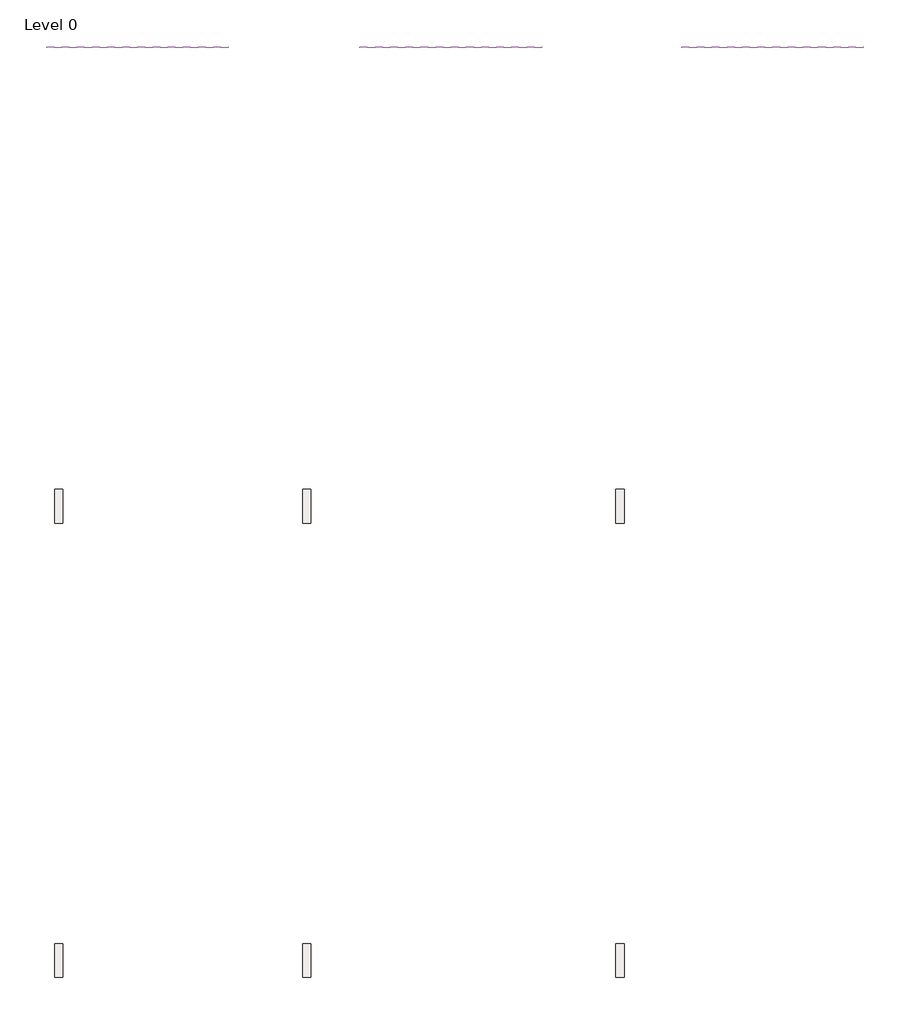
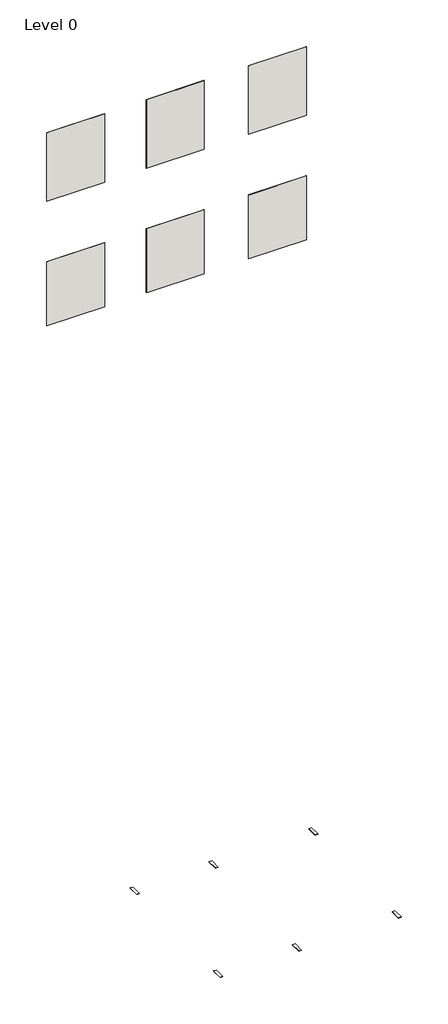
# One storey: 6 slabs, 6 walls.
"""IFC4 building model written with IfcOpenShell, lengths in millimetres."""

from ifc_helpers import new_model, si_unit, frame, origin, place, context, project, spatial, polyline, outline, extrude, element, save

model = new_model("IFC4")

# Units and contexts
model_context = context("Model", 3, world=origin())
ifc_project = project(units=[si_unit("LENGTHUNIT", "METRE", prefix="MILLI")], contexts=[model_context])

# Site, building, storey
site = spatial("IfcSite", under=ifc_project)
building = spatial("IfcBuilding", under=site)
storey = spatial("IfcBuildingStorey", under=building, Name="Level 0", Elevation=0.0)

# Slabs
placement = place(None, origin())
element("IfcSlab", 1, ObjectType="Floor_Tiles_Refin-Halo-Basil-Lucido_6x24_OY76", at=placement, inside=storey, context=model_context, shape_type="SweptSolid", body=[
    extrude(outline(polyline([(6034.3752062, 4978.4192064), (6034.3752062, 4738.4192064), (5974.3752062, 4738.4192064), (5974.3752062, 4978.4192064), (6034.3752062, 4978.4192064)])), frame((0.0, 0.0, -9.5), z_axis=(0.0, 0.0, 1.0), x_axis=(1.0, 0.0, 0.0)), (0.0, 0.0, 1.0), 9.5),
])
element("IfcSlab", 2, ObjectType="Floor_Tiles_Refin-Halo-Cherry-Lucido_6x24_OY77", at=placement, inside=storey, context=model_context, shape_type="SweptSolid", body=[
    extrude(outline(polyline([(7807.3924055, 4978.4192064), (7807.3924055, 4738.4192064), (7747.3924055, 4738.4192064), (7747.3924055, 4978.4192064), (7807.3924055, 4978.4192064)])), frame((0.0, 0.0, -9.5), z_axis=(0.0, 0.0, 1.0), x_axis=(1.0, 0.0, 0.0)), (0.0, 0.0, 1.0), 9.5),
])
element("IfcSlab", 3, ObjectType="Floor_Tiles_Refin-Halo-Chrome-Lucido_6x24_OY79", at=placement, inside=storey, context=model_context, shape_type="SweptSolid", body=[
    extrude(outline(polyline([(10047.3924055, 4978.4192064), (10047.3924055, 4738.4192064), (9987.3924055, 4738.4192064), (9987.3924055, 4978.4192064), (10047.3924055, 4978.4192064)])), frame((0.0, 0.0, -9.5), z_axis=(0.0, 0.0, 1.0), x_axis=(1.0, 0.0, 0.0)), (0.0, 0.0, 1.0), 9.5),
])
element("IfcSlab", 4, ObjectType="Floor_Tiles_Refin-Halo-Cotton-Lucido_6x24_OY80", at=placement, inside=storey, context=model_context, shape_type="SweptSolid", body=[
    extrude(outline(polyline([(6034.3752062, 1729.4623743), (6034.3752062, 1489.4623743), (5974.3752062, 1489.4623743), (5974.3752062, 1729.4623743), (6034.3752062, 1729.4623743)])), frame((0.0, 0.0, -9.5), z_axis=(0.0, 0.0, 1.0), x_axis=(1.0, 0.0, 0.0)), (0.0, 0.0, 1.0), 9.5),
])
element("IfcSlab", 5, ObjectType="Floor_Tiles_Refin-Halo-Ink-Lucido_6x24_OY81", at=placement, inside=storey, context=model_context, shape_type="SweptSolid", body=[
    extrude(outline(polyline([(7807.3924055, 1729.4623743), (7807.3924055, 1489.4623743), (7747.3924055, 1489.4623743), (7747.3924055, 1729.4623743), (7807.3924055, 1729.4623743)])), frame((0.0, 0.0, -9.5), z_axis=(0.0, 0.0, 1.0), x_axis=(1.0, 0.0, 0.0)), (0.0, 0.0, 1.0), 9.5),
])
element("IfcSlab", 6, ObjectType="Floor_Tiles_Refin-Halo-Ocean-Lucido_6x24_OY82", at=placement, inside=storey, context=model_context, shape_type="SweptSolid", body=[
    extrude(outline(polyline([(10047.3924055, 1729.4623743), (10047.3924055, 1489.4623743), (9987.3924055, 1489.4623743), (9987.3924055, 1729.4623743), (10047.3924055, 1729.4623743)])), frame((0.0, 0.0, -9.5), z_axis=(0.0, 0.0, 1.0), x_axis=(1.0, 0.0, 0.0)), (0.0, 0.0, 1.0), 9.5),
])

# Walls
element("IfcWall", 7, ObjectType="Wall_Tiles_Refin-Halo-Basil-Lucido_6x24_OY76", at=placement, inside=storey, context=model_context, shape_type="SweptSolid", body=[
    extrude(outline(polyline([(7217.3752062, 8132.6338631), (5917.3752062, 8132.6338631), (5917.3752062, 8142.1338631), (7217.3752062, 8142.1338631), (7217.3752062, 8132.6338631)])), frame((0.0, 0.0, 14403.7267346), z_axis=(0.0, 0.0, 1.0), x_axis=(1.0, 0.0, 0.0)), (0.0, 0.0, 1.0), 1625.692045),
])
element("IfcWall", 8, ObjectType="Wall_Tiles_Refin-Halo-Cherry-Lucido_6x24_OY77", at=placement, inside=storey, context=model_context, shape_type="SweptSolid", body=[
    extrude(outline(polyline([(9457.3752062, 8132.6338631), (8157.3752062, 8132.6338631), (8157.3752062, 8142.1338631), (9457.3752062, 8142.1338631), (9457.3752062, 8132.6338631)])), frame((0.0, 0.0, 14403.7267346), z_axis=(0.0, 0.0, 1.0), x_axis=(1.0, 0.0, 0.0)), (0.0, 0.0, 1.0), 1625.692045),
])
element("IfcWall", 9, ObjectType="Wall_Tiles_Refin-Halo-Chrome-Lucido_6x24_OY79", at=placement, inside=storey, context=model_context, shape_type="SweptSolid", body=[
    extrude(outline(polyline([(11757.3752062, 8132.6338631), (10457.3752062, 8132.6338631), (10457.3752062, 8142.1338631), (11757.3752062, 8142.1338631), (11757.3752062, 8132.6338631)])), frame((0.0, 0.0, 14403.7267346), z_axis=(0.0, 0.0, 1.0), x_axis=(1.0, 0.0, 0.0)), (0.0, 0.0, 1.0), 1625.692045),
])
element("IfcWall", 10, ObjectType="Wall_Tiles_Refin-Halo-Cotton-Lucido_6x24_OY80", at=placement, inside=storey, context=model_context, shape_type="SweptSolid", body=[
    extrude(outline(polyline([(5917.3752062, 8142.1338631), (7217.3752062, 8142.1338631), (7217.3752062, 8132.6338631), (5917.3752062, 8132.6338631), (5917.3752062, 8142.1338631)])), frame((0.0, 0.0, 11452.5436262), z_axis=(0.0, 0.0, 1.0), x_axis=(1.0, 0.0, 0.0)), (0.0, 0.0, 1.0), 1513.1985566),
])
element("IfcWall", 11, ObjectType="Wall_Tiles_Refin-Halo-Ink-Lucido_6x24_OY81", at=placement, inside=storey, context=model_context, shape_type="SweptSolid", body=[
    extrude(outline(polyline([(9457.3752062, 8132.6338631), (8157.3752062, 8132.6338631), (8157.3752062, 8142.1338631), (9457.3752062, 8142.1338631), (9457.3752062, 8132.6338631)])), frame((0.0, 0.0, 11452.5436262), z_axis=(0.0, 0.0, 1.0), x_axis=(1.0, 0.0, 0.0)), (0.0, 0.0, 1.0), 1513.1985566),
])
element("IfcWall", 12, ObjectType="Wall_Tiles_Refin-Halo-Ocean-Lucido_6x24_OY82", at=placement, inside=storey, context=model_context, shape_type="SweptSolid", body=[
    extrude(outline(polyline([(11757.3752062, 8132.6338631), (10457.3752062, 8132.6338631), (10457.3752062, 8142.1338631), (11757.3752062, 8142.1338631), (11757.3752062, 8132.6338631)])), frame((0.0, 0.0, 11452.5436262), z_axis=(0.0, 0.0, 1.0), x_axis=(1.0, 0.0, 0.0)), (0.0, 0.0, 1.0), 1513.1985566),
])

save(model, "model.ifc")
